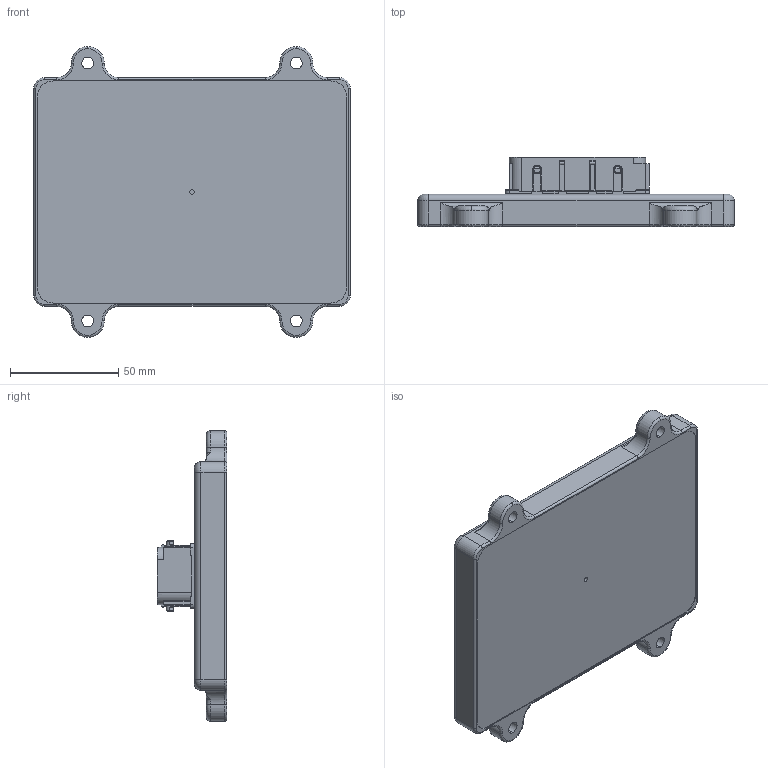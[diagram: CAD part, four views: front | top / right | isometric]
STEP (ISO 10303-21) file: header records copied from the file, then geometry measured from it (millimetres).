
FILE_DESCRIPTION (( 'STEP AP214' ), '1' );
FILE_NAME ('Case CVM.STEP', '2018-04-11T19:55:15', ( '' ), ( '' ), 'SwSTEP 2.0', 'SolidWorks 2018', '' );
FILE_SCHEMA (( 'AUTOMOTIVE_DESIGN' ));
Length unit declared in the file: millimetre
Products named in the file (1): Case CVM
Bounding box: 146.49 x 32.25 x 134.6 mm (x, y, z)
Volume: 260929.4 mm3; surface area: 44237.2 mm2
Topology: 1 solids, 2 shells, 526 faces, 1371 edges, 852 vertices
Faces by surface type: cylinder 188, plane 172, bspline 93, torus 69, sphere 4
Entity records: 25917 total; most frequent: CARTESIAN_POINT 8155, ORIENTED_EDGE 2738, DIRECTION 2270, EDGE_CURVE 1369, VERTEX_POINT 852, AXIS2_PLACEMENT_3D 823, VECTOR 624, LINE 624
